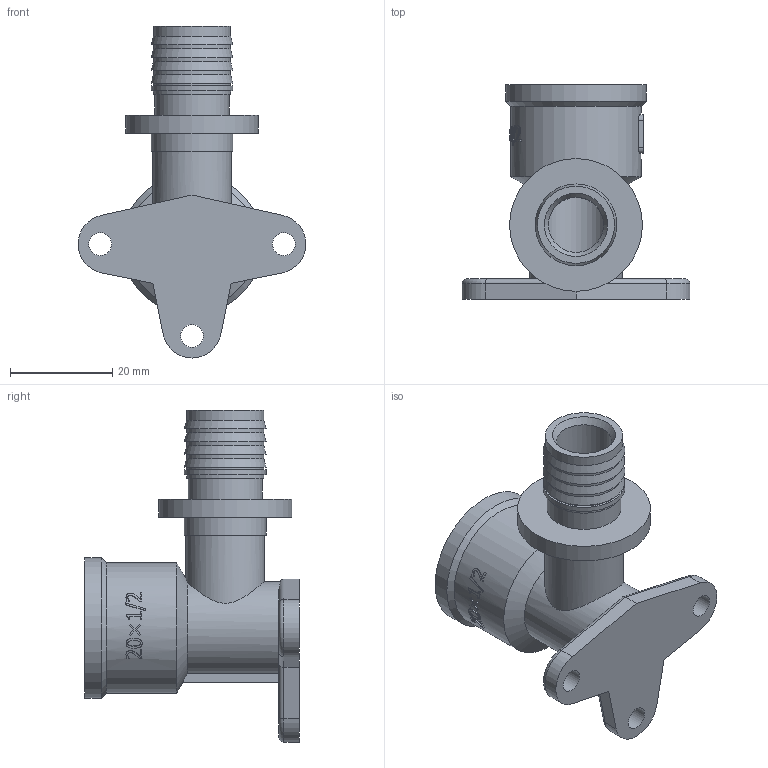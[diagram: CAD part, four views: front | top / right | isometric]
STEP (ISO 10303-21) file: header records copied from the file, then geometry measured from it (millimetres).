
FILE_DESCRIPTION(/* description */ (''),/* implementation_level */ '2;1');
FILE_NAME(/* name */ 'C:\Users\Doom\Desktop\Фадотех\Натяжка\SFU40_NEW 20X0.5F 10.05.2020\SFU40_NEW 20X0.5F 10.05.2020.stp',/* time_stamp */ '2022-07-26T16:13:06+03:00',/* author */ ('Doom'),/* organization */ (''),/* preprocessor_version */ 'ST-DEVELOPER v18',/* originating_system */ 'Autodesk Inventor 2020',/* authorisation */ '');
FILE_SCHEMA (('AUTOMOTIVE_DESIGN { 1 0 10303 214 3 1 1 }'));
Length unit declared in the file: millimetre
Products named in the file (1): RFU30 16X12F 21.08.2020
Bounding box: 44.62 x 42 x 65.01 mm (x, y, z)
Volume: 15737.5 mm3; surface area: 13463.2 mm2
Topology: 2 solids, 2 shells, 195 faces, 526 edges, 354 vertices
Faces by surface type: plane 71, bspline 63, cylinder 48, cone 10, torus 3
Full cylindrical faces by diameter (mm): 4.5 x3, 10.8 x1, 12.3 x1, 14.5 x1, 15.1 x6, 15.4 x1, 16 x2, 18.26 x9, 20.95 x2, 25.5 x1, 26 x1, 27.5 x1
Entity records: 11650 total; most frequent: CARTESIAN_POINT 7067, ORIENTED_EDGE 1044, DIRECTION 758, EDGE_CURVE 522, VERTEX_POINT 352, AXIS2_PLACEMENT_3D 265, LINE 228, VECTOR 228
